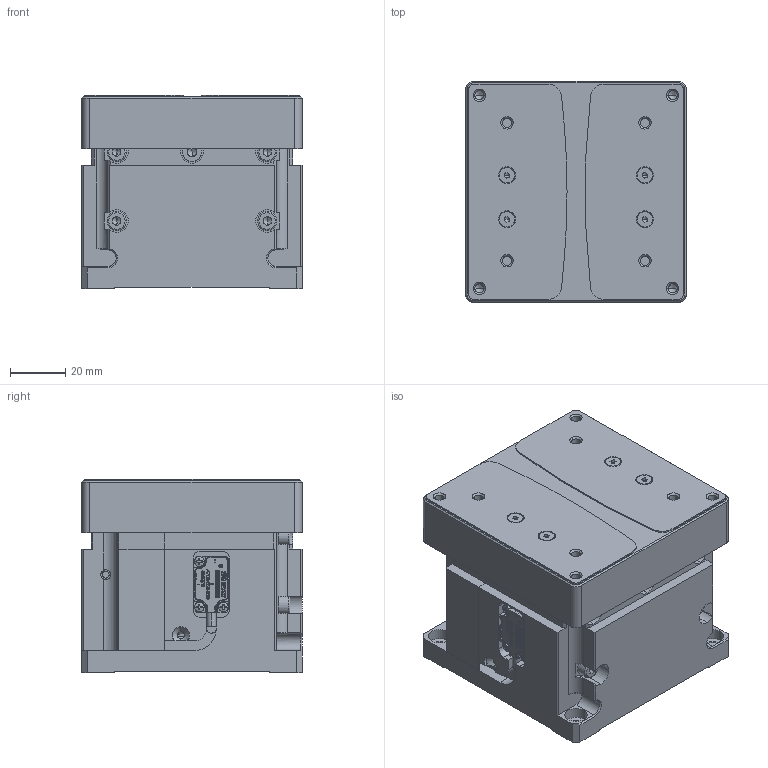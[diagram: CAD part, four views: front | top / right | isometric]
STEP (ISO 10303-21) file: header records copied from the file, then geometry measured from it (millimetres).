
FILE_DESCRIPTION (( 'STEP AP203' ), '1' );
FILE_NAME ('vs3-0805-v2_jc.STEP', '2023-04-26T03:01:45', ( '微软用户' ), ( '微软中国' ), 'SwSTEP 2.0', 'SolidWorks 2021', '' );
FILE_SCHEMA (( 'CONFIG_CONTROL_DESIGN' ));
Length unit declared in the file: millimetre
Products named in the file (28): hexagon socket countersunk head screws gb_GB_FASTENER_SCREWS_HSCHS M3X8-N; PZTH_0812C_ASM; DZ_JM308B_20220110; JM308B_20220110_ASM; M-9693-2499-02_A_ASM; HTZJ_VS3-0805-V2_JM308B; vs3-0805-v2_jc; VR3_50_7Z_ROLLER_CAGE; MDZJ_VS3-0805-V2_JM308B; VR3_50HX7Z_0__AF0_ASM; hexagon socket head cap screws gb_GB_FASTENER_SCREWS_HSHCS M4X6-N; M4_12; MCP_VS3-0812C-V2_JM308B; WFH4-60; VR3_50_7Z_ROLLER_GUIDE; JZ_VS3-0805-V2_JM308B; cross recessed small pan head screws gb_GB_CROSS_SCREWS_TYPE3 M2X3-3-N; VR3_50_7ZR1; GAI_JM308B_20220110; M-9677-2500-01_A_1; HT_VS3-0805-V2_JM308B; ATOM_2T0_ASM; DT_25; M-9693-2499-02_A_1; M-9693-2499-02_A_2; THDXG_0812C; VR3_50HX7Z_1_ASM; hexagon socket head cap screws gb_GB_FASTENER_SCREWS_HSHCS M3X6-N
Assembly tree (46 placements, depth 4):
  vs3-0805-v2_jc
    JZ_VS3-0805-V2_JM308B
    VR3_50HX7Z_0__AF0_ASM
      VR3_50_7Z_ROLLER_GUIDE
      VR3_50_7Z_ROLLER_CAGE
      VR3_50_7ZR1
    VR3_50HX7Z_1_ASM
      VR3_50_7Z_ROLLER_GUIDE
      VR3_50_7Z_ROLLER_CAGE
      VR3_50_7ZR1
    HTZJ_VS3-0805-V2_JM308B
    MDZJ_VS3-0805-V2_JM308B
    HT_VS3-0805-V2_JM308B
    JM308B_20220110_ASM
      DZ_JM308B_20220110
      GAI_JM308B_20220110  x2
    PZTH_0812C_ASM
      DT_25
      THDXG_0812C
      WFH4-60
    MCP_VS3-0812C-V2_JM308B
    M4_12
    ATOM_2T0_ASM
      M-9677-2500-01_A_1
      M-9693-2499-02_A_ASM
        M-9693-2499-02_A_1
        M-9693-2499-02_A_2
    cross recessed small pan head screws gb_GB_CROSS_SCREWS_TYPE3 M2X3-3-N  x3
    hexagon socket head cap screws gb_GB_FASTENER_SCREWS_HSHCS M4X6-N  x8
    hexagon socket head cap screws gb_GB_FASTENER_SCREWS_HSHCS M3X6-N  x4
    hexagon socket countersunk head screws gb_GB_FASTENER_SCREWS_HSCHS M3X8-N  x4
Bounding box: 80 x 80 x 70 mm (x, y, z)
Volume: 341539.9 mm3; surface area: 134237.8 mm2
Topology: 40 solids, 40 shells, 2989 faces, 7878 edges, 5054 vertices
Faces by surface type: plane 1623, cylinder 835, cone 372, bspline 121, torus 32, sphere 6
Entity records: 86462 total; most frequent: CARTESIAN_POINT 29388, ORIENTED_EDGE 11750, DIRECTION 10067, EDGE_CURVE 5875, VERTEX_POINT 3831, LINE 3573, VECTOR 3573, AXIS2_PLACEMENT_3D 3247
